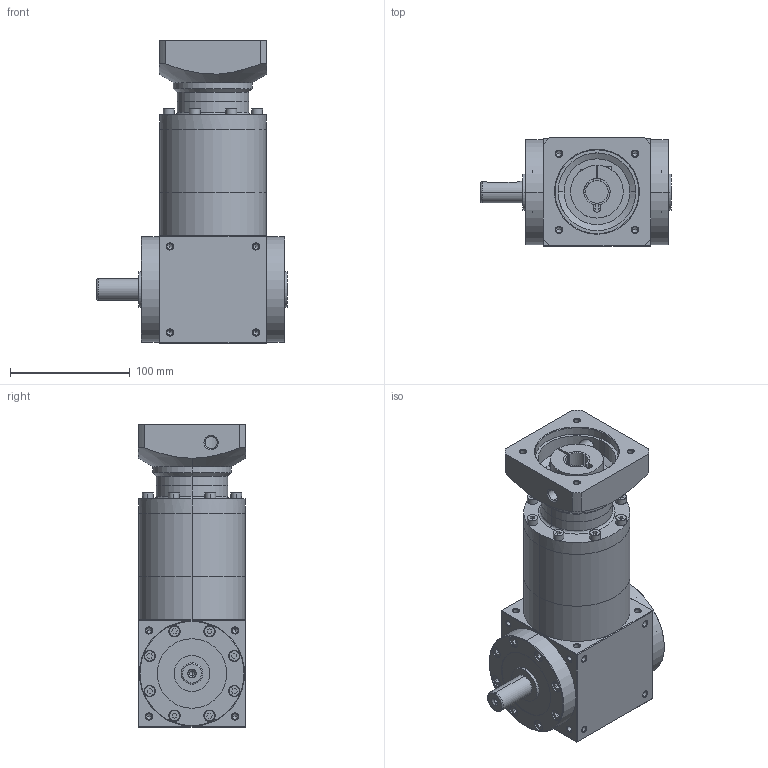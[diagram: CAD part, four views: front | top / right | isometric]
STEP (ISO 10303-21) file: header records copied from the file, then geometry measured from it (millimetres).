
FILE_DESCRIPTION (( 'STEP AP203' ), '1' );
FILE_NAME ('AT090-FL1-L4-19-70-90M6.STEP', '2025-12-13T02:42:40', ( 'Windows User' ), ( 'P R C' ), 'SwSTEP 2.0', 'SolidWorks 2016', '' );
FILE_SCHEMA (( 'CONFIG_CONTROL_DESIGN' ));
Length unit declared in the file: millimetre
Products named in the file (7): AT90蛌倰怀堤楊擘; 输入胀套-22; AT90双级齿圈; AT90-转角箱体-左单轴-输出; AT90输入法兰-E-70-M6-90; AT90H-双级齿圈; AT090-FL1-L4-19-70-90M6
Assembly tree (6 placements, depth 2):
  AT090-FL1-L4-19-70-90M6
    AT90-转角箱体-左单轴-输出
    AT90蛌倰怀堤楊擘
    输入胀套-22
    AT90双级齿圈
    AT90输入法兰-E-70-M6-90
    AT90H-双级齿圈
Bounding box: 159 x 90 x 253 mm (x, y, z)
Volume: 1414743 mm3; surface area: 216269.7 mm2
Topology: 6 solids, 18 shells, 1469 faces, 3708 edges, 2331 vertices
Faces by surface type: plane 754, cylinder 311, cone 235, bspline 169
Entity records: 51565 total; most frequent: CARTESIAN_POINT 17152, ORIENTED_EDGE 7224, DIRECTION 6392, EDGE_CURVE 3612, LINE 2388, VECTOR 2388, VERTEX_POINT 2330, AXIS2_PLACEMENT_3D 2002
